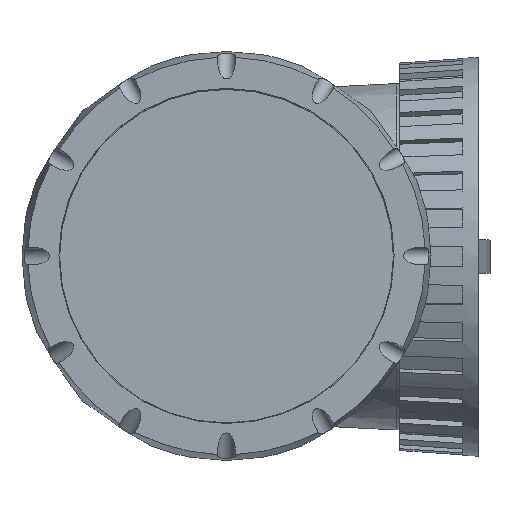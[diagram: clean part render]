
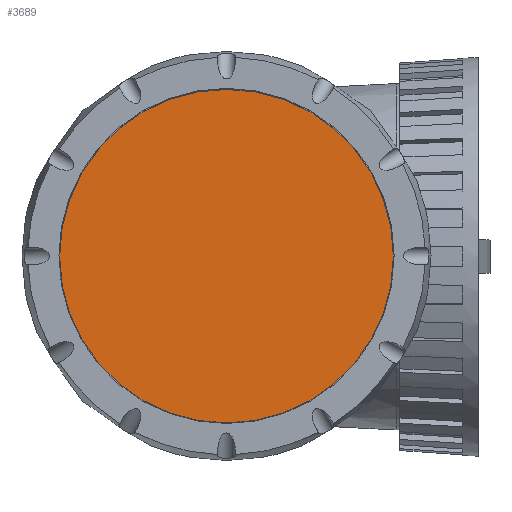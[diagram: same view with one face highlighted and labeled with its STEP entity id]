
A CAD part, top view. The second image highlights one B-rep face of the part: STEP entity #3689.
In plain terms, the highlighted planar face has unit normal (0, 0, 1).
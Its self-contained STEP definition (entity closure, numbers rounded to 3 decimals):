
#727=PLANE('',#3915);
#921=FACE_OUTER_BOUND('',#1134,.T.);
#1134=EDGE_LOOP('',(#2401));
#1359=CIRCLE('',#3916,37.95);
#1482=VERTEX_POINT('',#5277);
#1852=EDGE_CURVE('',#1482,#1482,#1359,.T.);
#2401=ORIENTED_EDGE('',*,*,#1852,.T.);
#3689=ADVANCED_FACE('',(#921),#727,.T.);
#3915=AXIS2_PLACEMENT_3D('',#5276,#4260,#4261);
#3916=AXIS2_PLACEMENT_3D('',#5278,#4262,#4263);
#4260=DIRECTION('center_axis',(0.,0.,
1.));
#4261=DIRECTION('ref_axis',(0.,-1.,0.));
#4262=DIRECTION('center_axis',(0.,0.,
1.));
#4263=DIRECTION('ref_axis',(0.,-1.,0.));
#5276=CARTESIAN_POINT('Origin',(0.,0.,
163.));
#5277=CARTESIAN_POINT('',(37.95,0.,163.));
#5278=CARTESIAN_POINT('Origin',(0.,0.,
163.));
